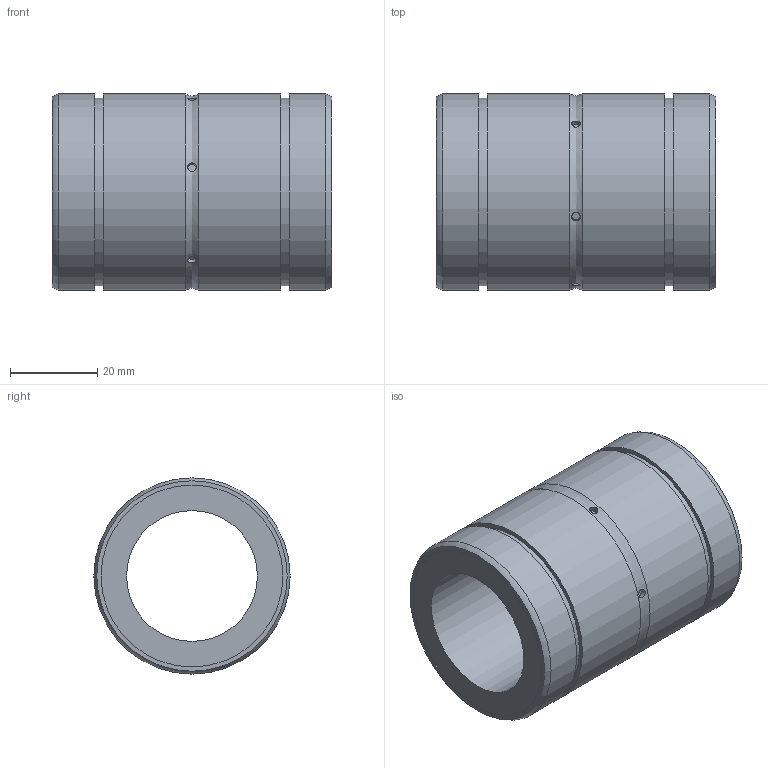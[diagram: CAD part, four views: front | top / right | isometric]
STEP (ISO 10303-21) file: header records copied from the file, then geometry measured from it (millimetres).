
FILE_DESCRIPTION((''),'2;1');
FILE_NAME('D:\製品 (図面)\カタログ用3D\リニアベアリング関連\STEP形式\L-OH\L30-OH.stp','2010-06-04T09:31:12',('Tsuchiya'),(''),'Autodesk Inventor 10','Autodesk Inventor 10','');
FILE_SCHEMA(('AUTOMOTIVE_DESIGN { 1 0 10303 214 1 1 1 1 }'));
Length unit declared in the file: millimetre
Products named in the file (1): L30-OH
Bounding box: 64 x 45 x 45 mm (x, y, z)
Volume: 55627.2 mm3; surface area: 17307.3 mm2
Topology: 1 solids, 1 shells, 32 faces, 56 edges, 38 vertices
Faces by surface type: cylinder 15, plane 8, bspline 7, torus 2
Full cylindrical faces by diameter (mm): 30 x1, 41.7 x2, 43 x2, 45 x4
Entity records: 1329 total; most frequent: CARTESIAN_POINT 819, DIRECTION 92, ORIENTED_EDGE 64, EDGE_LOOP 64, AXIS2_PLACEMENT_3D 46, VERTEX_POINT 32, EDGE_CURVE 32, FACE_OUTER_BOUND 32
